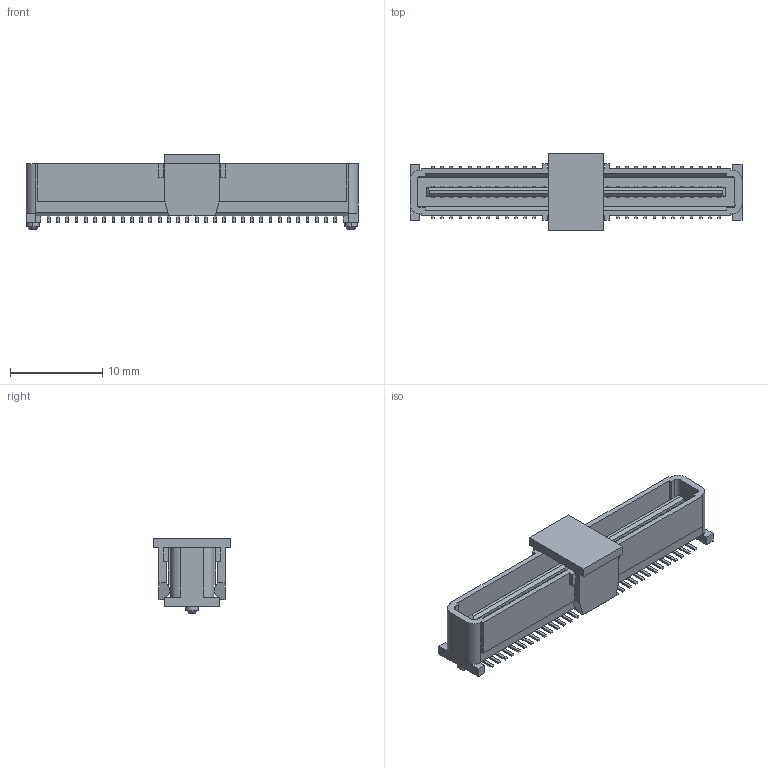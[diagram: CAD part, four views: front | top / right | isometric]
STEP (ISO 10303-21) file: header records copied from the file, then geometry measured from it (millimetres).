
FILE_DESCRIPTION (( 'STEP AP214' ), '1' );
FILE_NAME ('組合件59.STEP', '2018-08-18T02:27:17', ( '' ), ( '' ), 'SwSTEP 2.0', 'SolidWorks 2011', '' );
FILE_SCHEMA (( 'AUTOMOTIVE_DESIGN' ));
Length unit declared in the file: millimetre
Products named in the file (5): 2349-64G00DP1T-P; 2349-pad; 2349-PIN-D1; 2349-housing; 組合件59
Assembly tree (67 placements, depth 3):
  組合件59
    2349-64G00DP1T-P
      2349-PIN-D1  x64
      2349-housing
      2349-pad
Bounding box: 35.9 x 8.35 x 8.11 mm (x, y, z)
Volume: 669.5 mm3; surface area: 2133 mm2
Topology: 130 solids, 130 shells, 2623 faces, 7065 edges, 4706 vertices
Faces by surface type: plane 1706, cylinder 913, cone 4
Entity records: 23108 total; most frequent: CARTESIAN_POINT 4079, ORIENTED_EDGE 3924, DIRECTION 3484, EDGE_CURVE 1962, VECTOR 1882, LINE 1882, VERTEX_POINT 1304, AXIS2_PLACEMENT_3D 801
